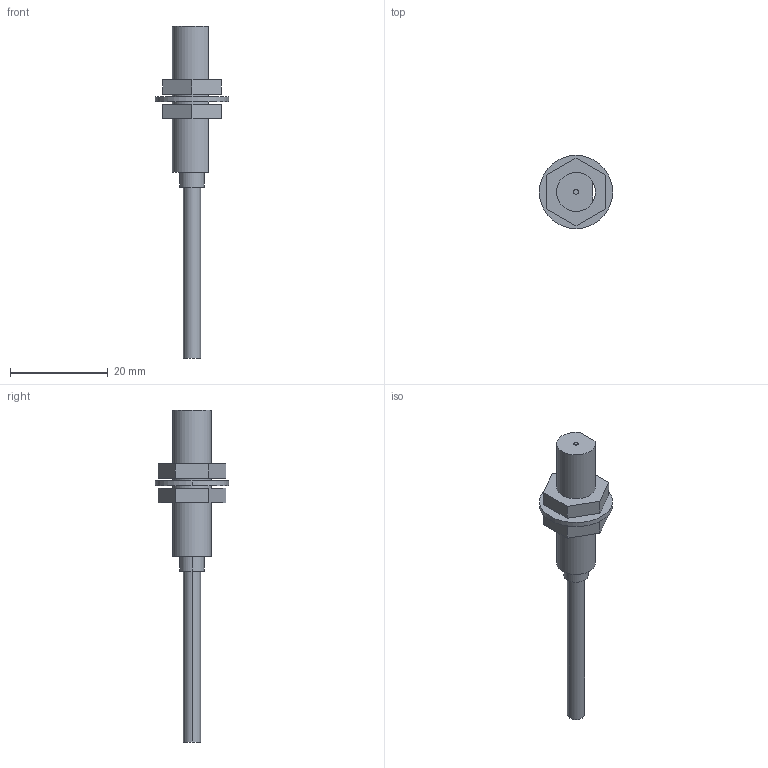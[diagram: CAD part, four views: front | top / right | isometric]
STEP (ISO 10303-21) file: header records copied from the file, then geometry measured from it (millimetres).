
FILE_DESCRIPTION (( 'STEP AP203' ), '1' );
FILE_NAME ('GX-8M.STEP', '2005-09-07T01:19:00', ( '' ), ( '' ), 'SwSTEP 2.0', 'SolidWorks 2004073', '' );
FILE_SCHEMA (( 'CONFIG_CONTROL_DESIGN' ));
Length unit declared in the file: millimetre
Products named in the file (1): GX-8M
Bounding box: 15 x 15 x 68 mm (x, y, z)
Volume: 2424.1 mm3; surface area: 2300.9 mm2
Topology: 4 solids, 4 shells, 43 faces, 96 edges, 64 vertices
Faces by surface type: plane 27, cylinder 16
Entity records: 1285 total; most frequent: DIRECTION 216, CARTESIAN_POINT 204, ORIENTED_EDGE 192, EDGE_CURVE 96, AXIS2_PLACEMENT_3D 76, VERTEX_POINT 64, VECTOR 64, LINE 64
